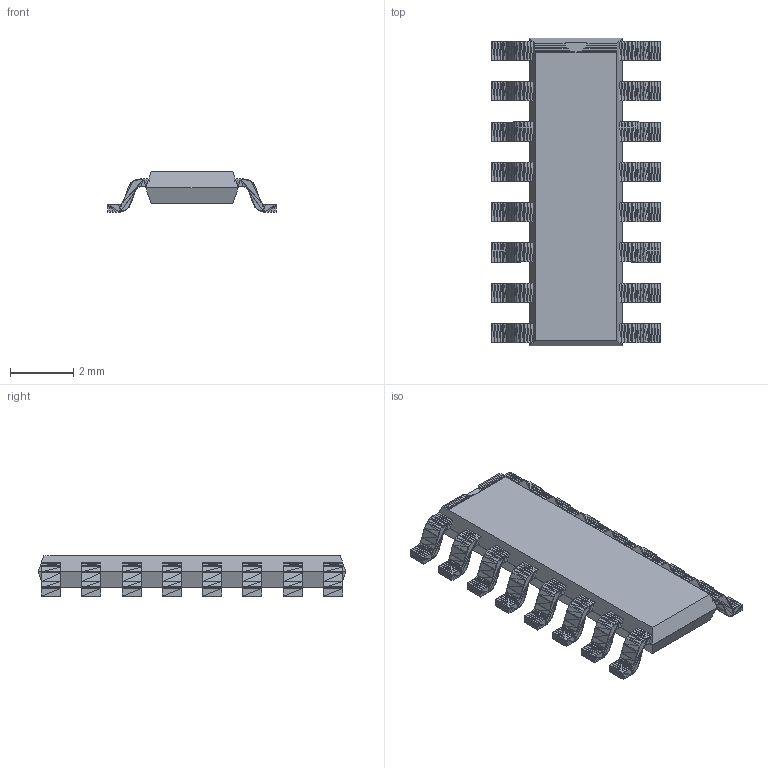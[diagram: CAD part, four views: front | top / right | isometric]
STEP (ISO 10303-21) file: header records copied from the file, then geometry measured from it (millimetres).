
FILE_DESCRIPTION(('shape.step'),'2;1');
FILE_NAME('shape.step','2026-11-03',('tscircuit'),('tscircuit'),'generator','','');
FILE_SCHEMA(('AUTOMOTIVE_DESIGN { 1 0 10303 214 1 1 1 1 }'));
Length unit declared in the file: millimetre
Products named in the file (1): shape
Bounding box: 5.3 x 9.69 x 1.28 mm (x, y, z)
Volume: 30.5 mm3; surface area: 132.9 mm2
Topology: 17 solids, 17 shells, 2931 faces, 4439 edges, 1542 vertices
Faces by surface type: plane 2931
Entity records: 53352 total; most frequent: DIRECTION 10303, ORIENTED_EDGE 8878, CARTESIAN_POINT 4474, VECTOR 4439, LINE 4439, EDGE_CURVE 4439, AXIS2_PLACEMENT_3D 2932, PLANE 2931
